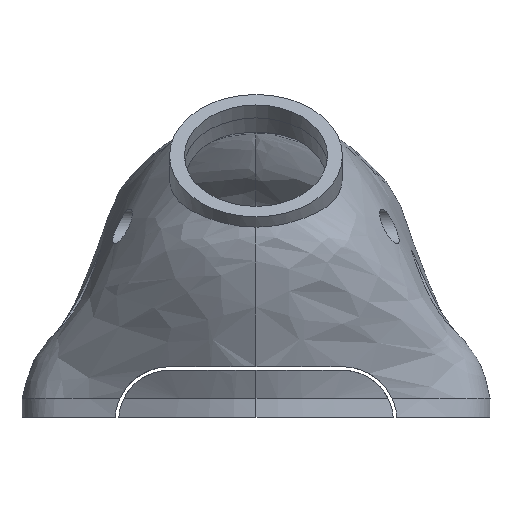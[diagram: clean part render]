
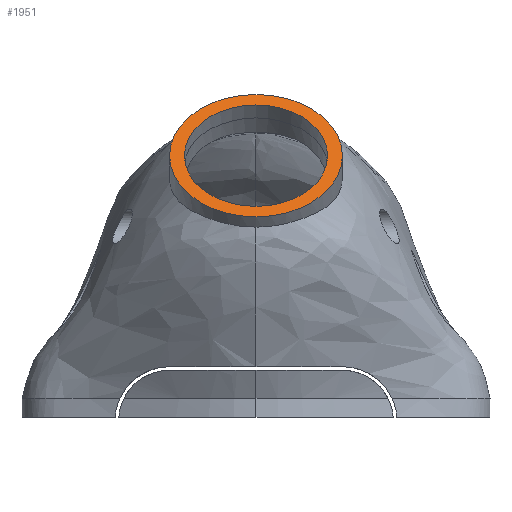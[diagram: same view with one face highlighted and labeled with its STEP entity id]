
A CAD part, left-side view. The second image highlights one B-rep face of the part: STEP entity #1951.
In plain terms, the highlighted planar face has unit normal (-0.707, 0, 0.707).
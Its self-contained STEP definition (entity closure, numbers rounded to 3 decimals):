
#35=FACE_BOUND('',#301,.T.);
#59=CIRCLE('',#2082,9.5);
#63=CIRCLE('',#2092,7.875);
#135=PLANE('',#2091);
#178=FACE_OUTER_BOUND('',#300,.T.);
#300=EDGE_LOOP('',(#1432));
#301=EDGE_LOOP('',(#1433));
#838=VERTEX_POINT('',#6621);
#849=VERTEX_POINT('',#6864);
#1065=EDGE_CURVE('',#838,#838,#59,.T.);
#1083=EDGE_CURVE('',#849,#849,#63,.T.);
#1432=ORIENTED_EDGE('',*,*,#1065,.F.);
#1433=ORIENTED_EDGE('',*,*,#1083,.T.);
#1951=ADVANCED_FACE('',(#178,#35),#135,.F.);
#2082=AXIS2_PLACEMENT_3D('',#6623,#2217,#2218);
#2091=AXIS2_PLACEMENT_3D('',#6863,#2240,#2241);
#2092=AXIS2_PLACEMENT_3D('',#6865,#2242,#2243);
#2217=DIRECTION('center_axis',(0.707,0.,-0.707));
#2218=DIRECTION('ref_axis',(0.707,0.,0.707));
#2240=DIRECTION('center_axis',(0.707,0.,-0.707));
#2241=DIRECTION('ref_axis',(0.,1.,0.));
#2242=DIRECTION('center_axis',(0.707,0.,-0.707));
#2243=DIRECTION('ref_axis',(0.707,0.,0.707));
#6621=CARTESIAN_POINT('',(-39.766,-9.5,28.766));
#6623=CARTESIAN_POINT('Origin',(-39.766,0.,28.766));
#6863=CARTESIAN_POINT('Origin',(-34.266,0.,34.266));
#6864=CARTESIAN_POINT('',(-39.766,-7.875,28.766));
#6865=CARTESIAN_POINT('Origin',(-39.766,0.,28.766));
